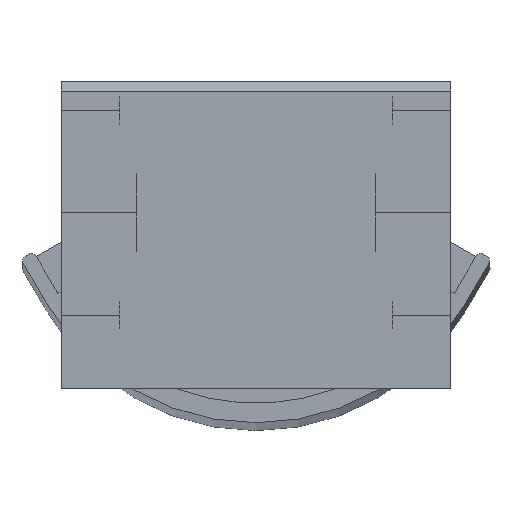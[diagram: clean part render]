
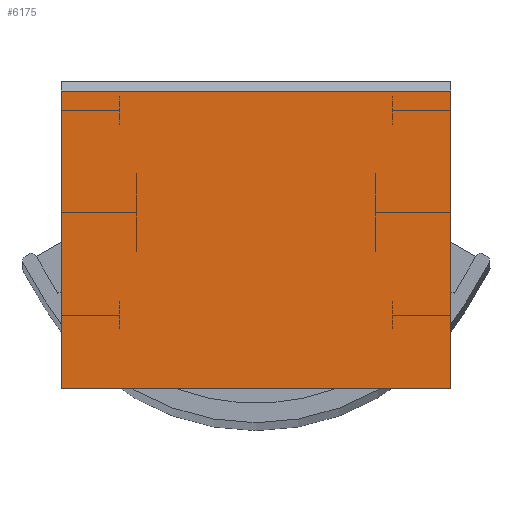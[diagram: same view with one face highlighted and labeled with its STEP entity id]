
A CAD part, top view. The second image highlights one B-rep face of the part: STEP entity #6175.
In plain terms, the highlighted planar face has unit normal (0, 0, 1).
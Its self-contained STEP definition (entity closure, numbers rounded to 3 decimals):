
#39 = VECTOR ( 'NONE', #11425, 1000. ) ;
#182 = ORIENTED_EDGE ( 'NONE', *, *, #2850, .F. ) ;
#776 = CARTESIAN_POINT ( 'NONE',  ( 0., 0., 29.5 ) ) ;
#959 = ORIENTED_EDGE ( 'NONE', *, *, #10471, .F. ) ;
#1433 = DIRECTION ( 'NONE',  ( 0., 1., 0. ) ) ;
#1448 = CARTESIAN_POINT ( 'NONE',  ( 80., 61., 29.5 ) ) ;
#1766 = VERTEX_POINT ( 'NONE', #7545 ) ;
#2128 = ORIENTED_EDGE ( 'NONE', *, *, #13131, .T. ) ;
#2549 = EDGE_LOOP ( 'NONE', ( #182, #10317, #2128, #959 ) ) ;
#2622 = DIRECTION ( 'NONE',  ( 0., 0., -1. ) ) ;
#2832 = CARTESIAN_POINT ( 'NONE',  ( 80., 0., 29.5 ) ) ;
#2850 = EDGE_CURVE ( 'NONE', #7129, #10073, #12874, .T. ) ;
#3960 = CARTESIAN_POINT ( 'NONE',  ( 80., 61., 29.5 ) ) ;
#4668 = DIRECTION ( 'NONE',  ( -1., 0., 0. ) ) ;
#5428 = CARTESIAN_POINT ( 'NONE',  ( 80., 0., 29.5 ) ) ;
#5696 = FACE_OUTER_BOUND ( 'NONE', #2549, .T. ) ;
#5925 = CARTESIAN_POINT ( 'NONE',  ( 0., 0., 29.5 ) ) ;
#6175 = ADVANCED_FACE ( 'NONE', ( #5696 ), #12239, .F. ) ;
#7129 = VERTEX_POINT ( 'NONE', #3960 ) ;
#7545 = CARTESIAN_POINT ( 'NONE',  ( 0., 61., 29.5 ) ) ;
#7818 = AXIS2_PLACEMENT_3D ( 'NONE', #10052, #2622, #1433 ) ;
#7835 = VECTOR ( 'NONE', #4668, 1000. ) ;
#8655 = DIRECTION ( 'NONE',  ( 0., -1., 0. ) ) ;
#8694 = CARTESIAN_POINT ( 'NONE',  ( 80., 0., 29.5 ) ) ;
#9169 = VECTOR ( 'NONE', #8655, 1000. ) ;
#9584 = VECTOR ( 'NONE', #10668, 1000. ) ;
#9678 = LINE ( 'NONE', #8694, #9584 ) ;
#9999 = LINE ( 'NONE', #1448, #7835 ) ;
#10052 = CARTESIAN_POINT ( 'NONE',  ( 80., 0., 29.5 ) ) ;
#10073 = VERTEX_POINT ( 'NONE', #2832 ) ;
#10317 = ORIENTED_EDGE ( 'NONE', *, *, #13042, .T. ) ;
#10471 = EDGE_CURVE ( 'NONE', #10073, #10677, #9678, .T. ) ;
#10668 = DIRECTION ( 'NONE',  ( -1., 0., 0. ) ) ;
#10677 = VERTEX_POINT ( 'NONE', #776 ) ;
#11425 = DIRECTION ( 'NONE',  ( 0., -1., 0. ) ) ;
#12239 = PLANE ( 'NONE',  #7818 ) ;
#12467 = LINE ( 'NONE', #5925, #39 ) ;
#12874 = LINE ( 'NONE', #5428, #9169 ) ;
#13042 = EDGE_CURVE ( 'NONE', #7129, #1766, #9999, .T. ) ;
#13131 = EDGE_CURVE ( 'NONE', #1766, #10677, #12467, .T. ) ;
